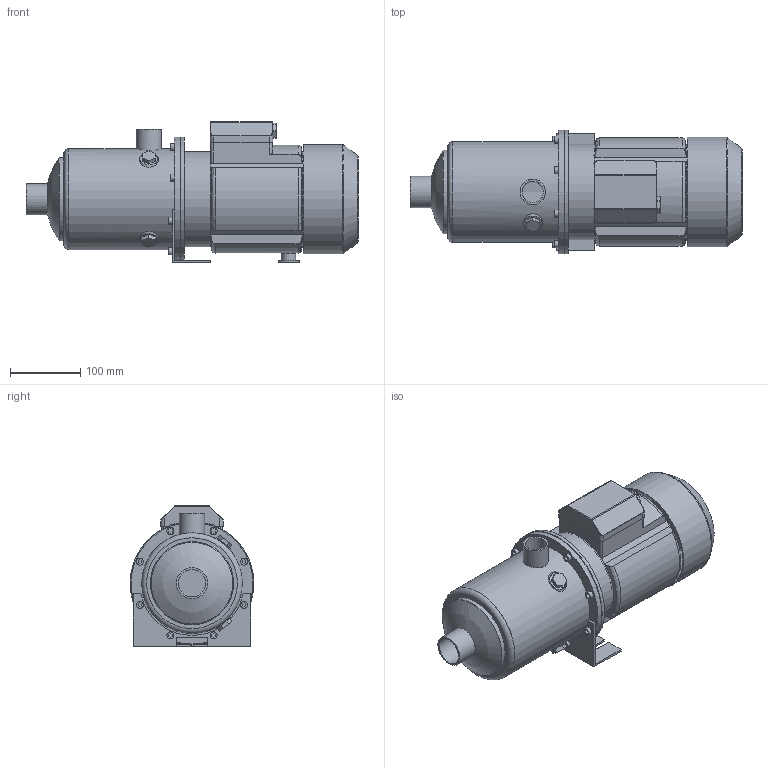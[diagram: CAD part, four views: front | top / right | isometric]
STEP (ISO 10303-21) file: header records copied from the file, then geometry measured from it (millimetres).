
FILE_DESCRIPTION(/* description */ ('Unknown'),/* implementation_level */ '2;1');
FILE_NAME(/* name */ 'MH 3 [6] T',/* time_stamp */ '2026-07-10T14:52:03+02:00',/* author */ ('Unknown'),/* organization */ ('Unknown'),/* preprocessor_version */ 'ST-DEVELOPER v20',/* originating_system */ 'Solid Edge',/* authorisation */ 'Unknown');
FILE_SCHEMA (('AUTOMOTIVE_DESIGN {1 0 10303 214 3 1 1}'));
Length unit declared in the file: millimetre
Products named in the file (10): MH 3 [6] T; Flangia motore Tonda M80; Corpo MH 3-5 [6]; Mot_Wendy_MEC80_11-15_T; carcassa MEC 80-Wendy; Copriventola MEC 80-Wendy; Basetta MEC 80 T-Wendy_new; Piedino MEC 80 int.90; Staffa 3-5-9 int.90
Assembly tree (8 placements, depth 3):
  MH 3 [6] T
    Flangia motore Tonda M80
    Corpo MH 3-5 [6]
    Mot_Wendy_MEC80_11-15_T
      carcassa MEC 80-Wendy
      Copriventola MEC 80-Wendy
      Basetta MEC 80 T-Wendy_new
    Piedino MEC 80 int.90
    Staffa 3-5-9 int.90
  (unnamed)
Bounding box: 473.1 x 176.5 x 200.5 mm (x, y, z)
Volume: 2068701.2 mm3; surface area: 588132.6 mm2
Topology: 8 solids, 8 shells, 276 faces, 647 edges, 429 vertices
Faces by surface type: plane 163, cylinder 74, torus 19, cone 14, bspline 4, sphere 2
Full cylindrical faces by diameter (mm): 7 x4, 10 x9, 13.5 x1, 17.5 x1, 21 x1, 30 x1, 30.291 x1, 36 x1, 38.952 x1, 44.5 x1, 116.1 x1, 118.5 x1, 125 x1, 130 x3, 134 x1, 136 x1, 141.1 x1, 143.5 x1, 153.5 x1, 155.5 x1, 173.5 x1, 174.1 x1, 176.5 x2
Entity records: 8860 total; most frequent: CARTESIAN_POINT 1595, DIRECTION 1262, ORIENTED_EDGE 1118, EDGE_CURVE 559, AXIS2_PLACEMENT_3D 461, VERTEX_POINT 398, EDGE_LOOP 385, FACE_BOUND 385
